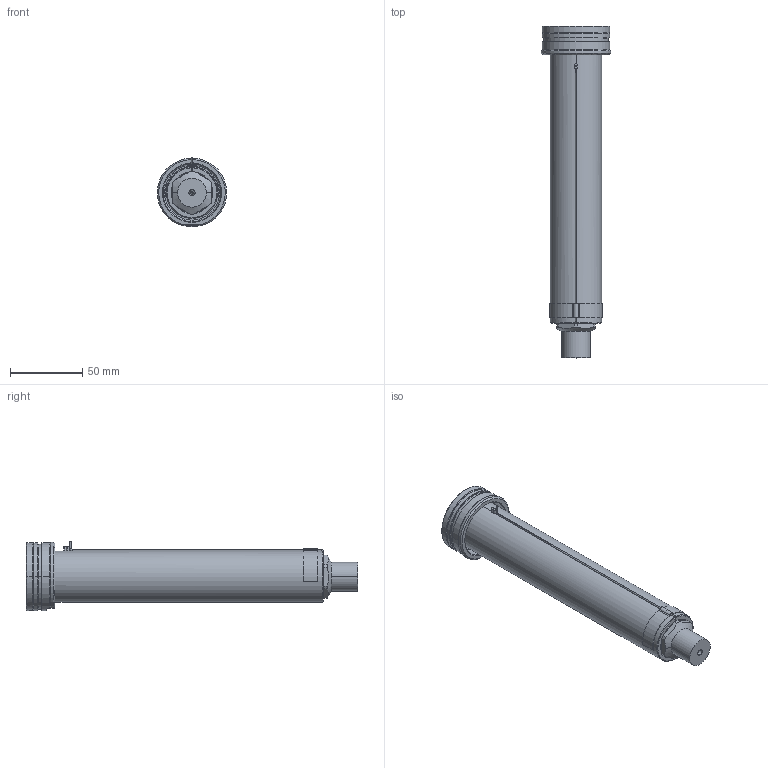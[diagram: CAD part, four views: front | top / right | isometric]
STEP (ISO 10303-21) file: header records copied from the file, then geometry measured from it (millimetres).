
FILE_DESCRIPTION((''),'2;1');
FILE_NAME('EO16_PG-FBE_STD_200_SW','2024-02-19T12:07:33',('sundharh'),(''),'CREO PARAMETRIC BY PTC INC, 2023154','CREO PARAMETRIC BY PTC INC, 2023154','');
FILE_SCHEMA(('CONFIG_CONTROL_DESIGN'));
Length unit declared in the file: millimetre
Products named in the file (1): EO16_PG-FBE_STD_200_SW
Bounding box: 47.97 x 230 x 48 mm (x, y, z)
Volume: 184330.2 mm3; surface area: 46273.4 mm2
Topology: 1 solids, 1 shells, 207 faces, 542 edges, 333 vertices
Faces by surface type: cylinder 81, plane 59, cone 43, torus 14, bspline 7, sphere 3
Entity records: 7573 total; most frequent: CARTESIAN_POINT 2381, DIRECTION 1149, ORIENTED_EDGE 1068, EDGE_CURVE 534, AXIS2_PLACEMENT_3D 479, VERTEX_POINT 333, CIRCLE 279, EDGE_LOOP 225
